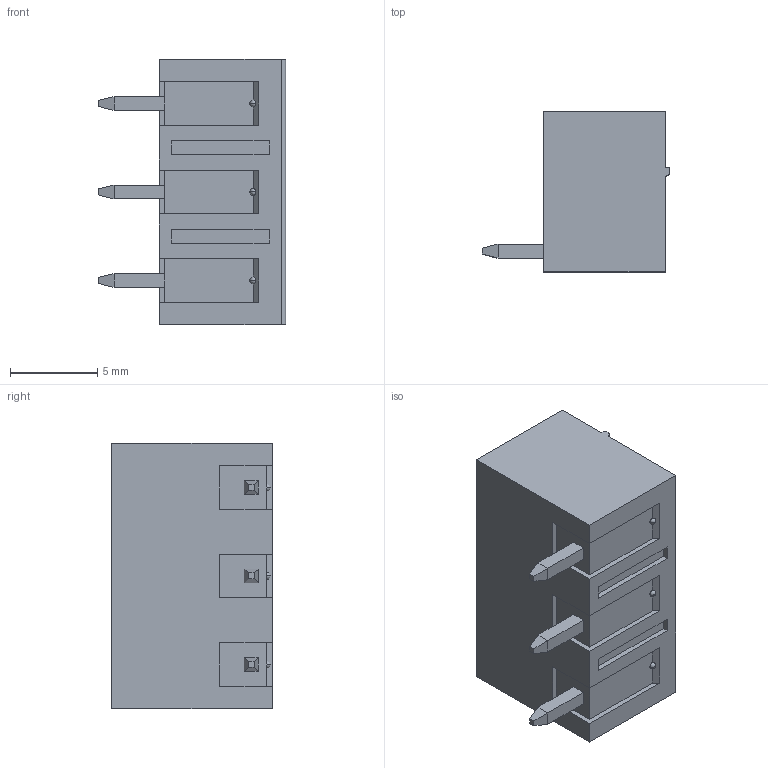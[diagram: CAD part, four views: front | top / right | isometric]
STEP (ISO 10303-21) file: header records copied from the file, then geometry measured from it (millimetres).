
FILE_DESCRIPTION((''),'2;1');
FILE_NAME('3','2019-05-14T',('zhenbing.lai'),(''),'CREO PARAMETRIC BY PTC INC, 2016260','CREO PARAMETRIC BY PTC INC, 2016260','');
FILE_SCHEMA(('CONFIG_CONTROL_DESIGN'));
Length unit declared in the file: millimetre
Products named in the file (1): 3
Bounding box: 10.75 x 9.2 x 15.24 mm (x, y, z)
Volume: 655 mm3; surface area: 1210.1 mm2
Topology: 1 solids, 3 shells, 210 faces, 519 edges, 320 vertices
Faces by surface type: plane 192, cylinder 9, sphere 6, cone 3
Entity records: 6041 total; most frequent: CARTESIAN_POINT 1085, ORIENTED_EDGE 1026, DIRECTION 959, EDGE_CURVE 513, VECTOR 467, LINE 467, VERTEX_POINT 320, AXIS2_PLACEMENT_3D 246
